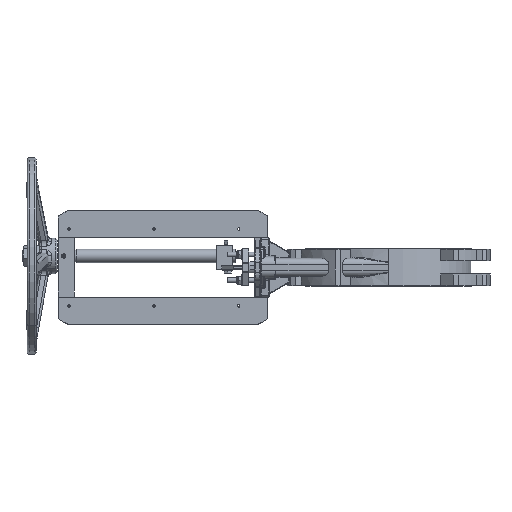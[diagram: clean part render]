
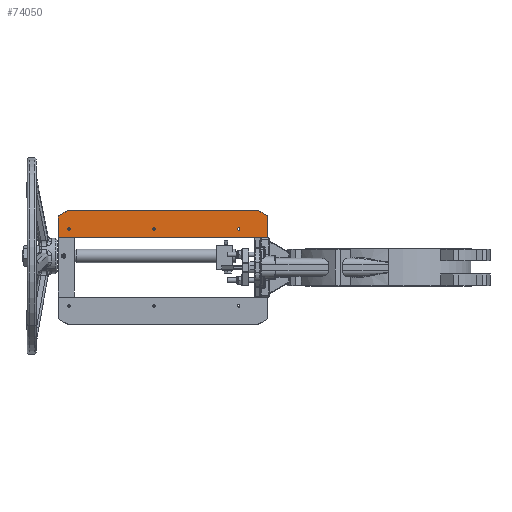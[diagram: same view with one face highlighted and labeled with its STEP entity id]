
A CAD part, left-side view. The second image highlights one B-rep face of the part: STEP entity #74050.
In plain terms, the highlighted planar face has unit normal (-1, 0, 0).
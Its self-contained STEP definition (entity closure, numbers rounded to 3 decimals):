
#107 = DIRECTION ( 'NONE',  ( 0., 1., 0. ) ) ;
#1748 = LINE ( 'NONE', #39332, #97489 ) ;
#1759 = CIRCLE ( 'NONE', #7356, 3. ) ;
#1867 = VERTEX_POINT ( 'NONE', #39246 ) ;
#2723 = VERTEX_POINT ( 'NONE', #12207 ) ;
#4734 = ORIENTED_EDGE ( 'NONE', *, *, #53545, .F. ) ;
#6549 = DIRECTION ( 'NONE',  ( 0., 0., -1. ) ) ;
#6610 = EDGE_CURVE ( 'NONE', #26821, #44985, #92739, .T. ) ;
#6786 = FACE_BOUND ( 'NONE', #97533, .T. ) ;
#7356 = AXIS2_PLACEMENT_3D ( 'NONE', #38644, #74540, #56869 ) ;
#7766 = EDGE_CURVE ( 'NONE', #93048, #37113, #10317, .T. ) ;
#9687 = FACE_OUTER_BOUND ( 'NONE', #55998, .T. ) ;
#10317 = CIRCLE ( 'NONE', #42170, 3. ) ;
#11782 = CARTESIAN_POINT ( 'NONE',  ( -90., 377., 97.5 ) ) ;
#12207 = CARTESIAN_POINT ( 'NONE',  ( -90., 807., 97.5 ) ) ;
#13948 = CARTESIAN_POINT ( 'NONE',  ( -90., 813., 97.5 ) ) ;
#14871 = DIRECTION ( 'NONE',  ( 1., 0., 0. ) ) ;
#16768 = ORIENTED_EDGE ( 'NONE', *, *, #34558, .T. ) ;
#19062 = ORIENTED_EDGE ( 'NONE', *, *, #95155, .T. ) ;
#19089 = DIRECTION ( 'NONE',  ( 1., 0., 0. ) ) ;
#19726 = EDGE_CURVE ( 'NONE', #92289, #56228, #1748, .T. ) ;
#19998 = EDGE_LOOP ( 'NONE', ( #31908, #109022 ) ) ;
#25093 = AXIS2_PLACEMENT_3D ( 'NONE', #45550, #19089, #82044 ) ;
#25574 = FACE_BOUND ( 'NONE', #26378, .T. ) ;
#25900 = CARTESIAN_POINT ( 'NONE',  ( -90., 812., 145. ) ) ;
#25944 = CIRCLE ( 'NONE', #73010, 3. ) ;
#26378 = EDGE_LOOP ( 'NONE', ( #85025, #16768 ) ) ;
#26821 = VERTEX_POINT ( 'NONE', #27440 ) ;
#27440 = CARTESIAN_POINT ( 'NONE',  ( -90., 592., 97.5 ) ) ;
#27570 = DIRECTION ( 'NONE',  ( 1., 0., 0. ) ) ;
#27934 = VECTOR ( 'NONE', #107, 1000. ) ;
#29152 = DIRECTION ( 'NONE',  ( 0., 0.866, 0.5 ) ) ;
#29299 = ORIENTED_EDGE ( 'NONE', *, *, #86845, .T. ) ;
#30276 = DIRECTION ( 'NONE',  ( 0., 1., 0. ) ) ;
#30339 = LINE ( 'NONE', #66249, #34430 ) ;
#30684 = EDGE_CURVE ( 'NONE', #94389, #1867, #95379, .T. ) ;
#31908 = ORIENTED_EDGE ( 'NONE', *, *, #7766, .T. ) ;
#32903 = CIRCLE ( 'NONE', #34741, 3. ) ;
#34430 = VECTOR ( 'NONE', #102120, 1000. ) ;
#34558 = EDGE_CURVE ( 'NONE', #2723, #53293, #25944, .T. ) ;
#34741 = AXIS2_PLACEMENT_3D ( 'NONE', #79640, #97284, #89011 ) ;
#37113 = VERTEX_POINT ( 'NONE', #11782 ) ;
#37118 = ORIENTED_EDGE ( 'NONE', *, *, #30684, .T. ) ;
#37316 = PLANE ( 'NONE',  #25093 ) ;
#38644 = CARTESIAN_POINT ( 'NONE',  ( -90., 380., 97.5 ) ) ;
#39246 = CARTESIAN_POINT ( 'NONE',  ( -90., 837., 75. ) ) ;
#39332 = CARTESIAN_POINT ( 'NONE',  ( -90., 307., 145. ) ) ;
#40056 = CARTESIAN_POINT ( 'NONE',  ( -90., 837., 130.566 ) ) ;
#40187 = AXIS2_PLACEMENT_3D ( 'NONE', #70555, #27570, #99328 ) ;
#42170 = AXIS2_PLACEMENT_3D ( 'NONE', #58849, #57694, #48867 ) ;
#44405 = DIRECTION ( 'NONE',  ( 1., 0., 0. ) ) ;
#44985 = VERTEX_POINT ( 'NONE', #94827 ) ;
#45550 = CARTESIAN_POINT ( 'NONE',  ( -90., 307., 145. ) ) ;
#46312 = CARTESIAN_POINT ( 'NONE',  ( -90., 307., 75. ) ) ;
#46482 = AXIS2_PLACEMENT_3D ( 'NONE', #52656, #44405, #70904 ) ;
#48867 = DIRECTION ( 'NONE',  ( 0., 1., 0. ) ) ;
#48952 = VERTEX_POINT ( 'NONE', #25900 ) ;
#52656 = CARTESIAN_POINT ( 'NONE',  ( -90., 595., 97.5 ) ) ;
#53293 = VERTEX_POINT ( 'NONE', #13948 ) ;
#53545 = EDGE_CURVE ( 'NONE', #56228, #1867, #112051, .T. ) ;
#53959 = CIRCLE ( 'NONE', #46482, 3. ) ;
#54704 = EDGE_CURVE ( 'NONE', #108715, #48952, #80108, .T. ) ;
#55998 = EDGE_LOOP ( 'NONE', ( #78047, #29299, #37118, #4734, #77499, #115999 ) ) ;
#56228 = VERTEX_POINT ( 'NONE', #46312 ) ;
#56869 = DIRECTION ( 'NONE',  ( 0., 1., 0. ) ) ;
#57694 = DIRECTION ( 'NONE',  ( 1., 0., 0. ) ) ;
#58644 = EDGE_CURVE ( 'NONE', #37113, #93048, #1759, .T. ) ;
#58849 = CARTESIAN_POINT ( 'NONE',  ( -90., 380., 97.5 ) ) ;
#59629 = CARTESIAN_POINT ( 'NONE',  ( -90., 383., 97.5 ) ) ;
#66249 = CARTESIAN_POINT ( 'NONE',  ( -90., 837., 130.566 ) ) ;
#67720 = FACE_BOUND ( 'NONE', #19998, .T. ) ;
#68399 = CARTESIAN_POINT ( 'NONE',  ( -90., 810., 97.5 ) ) ;
#70555 = CARTESIAN_POINT ( 'NONE',  ( -90., 595., 97.5 ) ) ;
#70904 = DIRECTION ( 'NONE',  ( 0., 1., 0. ) ) ;
#72450 = CARTESIAN_POINT ( 'NONE',  ( -90., 307., 145. ) ) ;
#73010 = AXIS2_PLACEMENT_3D ( 'NONE', #68399, #14871, #103116 ) ;
#73886 = CARTESIAN_POINT ( 'NONE',  ( -90., 307., 130.566 ) ) ;
#74050 = ADVANCED_FACE ( 'NONE', ( #25574, #6786, #67720, #9687 ), #37316, .F. ) ;
#74540 = DIRECTION ( 'NONE',  ( 1., 0., 0. ) ) ;
#75534 = EDGE_CURVE ( 'NONE', #53293, #2723, #32903, .T. ) ;
#77499 = ORIENTED_EDGE ( 'NONE', *, *, #19726, .F. ) ;
#78047 = ORIENTED_EDGE ( 'NONE', *, *, #54704, .T. ) ;
#79640 = CARTESIAN_POINT ( 'NONE',  ( -90., 810., 97.5 ) ) ;
#80108 = LINE ( 'NONE', #72450, #27934 ) ;
#82044 = DIRECTION ( 'NONE',  ( 0., 1., 0. ) ) ;
#85025 = ORIENTED_EDGE ( 'NONE', *, *, #75534, .T. ) ;
#85048 = EDGE_CURVE ( 'NONE', #92289, #108715, #89773, .T. ) ;
#86845 = EDGE_CURVE ( 'NONE', #48952, #94389, #30339, .T. ) ;
#89011 = DIRECTION ( 'NONE',  ( 0., 1., 0. ) ) ;
#89753 = CARTESIAN_POINT ( 'NONE',  ( -90., 332., 145. ) ) ;
#89773 = LINE ( 'NONE', #73886, #96265 ) ;
#91119 = DIRECTION ( 'NONE',  ( 0., 0., -1. ) ) ;
#92289 = VERTEX_POINT ( 'NONE', #105352 ) ;
#92739 = CIRCLE ( 'NONE', #40187, 3. ) ;
#93048 = VERTEX_POINT ( 'NONE', #59629 ) ;
#94389 = VERTEX_POINT ( 'NONE', #40056 ) ;
#94827 = CARTESIAN_POINT ( 'NONE',  ( -90., 598., 97.5 ) ) ;
#95155 = EDGE_CURVE ( 'NONE', #44985, #26821, #53959, .T. ) ;
#95379 = LINE ( 'NONE', #106520, #104401 ) ;
#96265 = VECTOR ( 'NONE', #29152, 1000. ) ;
#97284 = DIRECTION ( 'NONE',  ( 1., 0., 0. ) ) ;
#97489 = VECTOR ( 'NONE', #91119, 1000. ) ;
#97533 = EDGE_LOOP ( 'NONE', ( #19062, #116259 ) ) ;
#99328 = DIRECTION ( 'NONE',  ( 0., 1., 0. ) ) ;
#102120 = DIRECTION ( 'NONE',  ( 0., 0.866, -0.5 ) ) ;
#103116 = DIRECTION ( 'NONE',  ( 0., 1., 0. ) ) ;
#104401 = VECTOR ( 'NONE', #6549, 1000. ) ;
#105352 = CARTESIAN_POINT ( 'NONE',  ( -90., 307., 130.566 ) ) ;
#106520 = CARTESIAN_POINT ( 'NONE',  ( -90., 837., 145. ) ) ;
#108715 = VERTEX_POINT ( 'NONE', #89753 ) ;
#109022 = ORIENTED_EDGE ( 'NONE', *, *, #58644, .T. ) ;
#110880 = CARTESIAN_POINT ( 'NONE',  ( -90., 307., 75. ) ) ;
#112051 = LINE ( 'NONE', #110880, #116095 ) ;
#115999 = ORIENTED_EDGE ( 'NONE', *, *, #85048, .T. ) ;
#116095 = VECTOR ( 'NONE', #30276, 1000. ) ;
#116259 = ORIENTED_EDGE ( 'NONE', *, *, #6610, .T. ) ;
